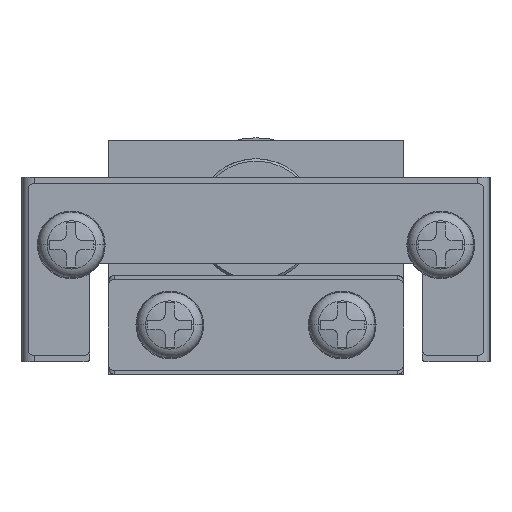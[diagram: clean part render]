
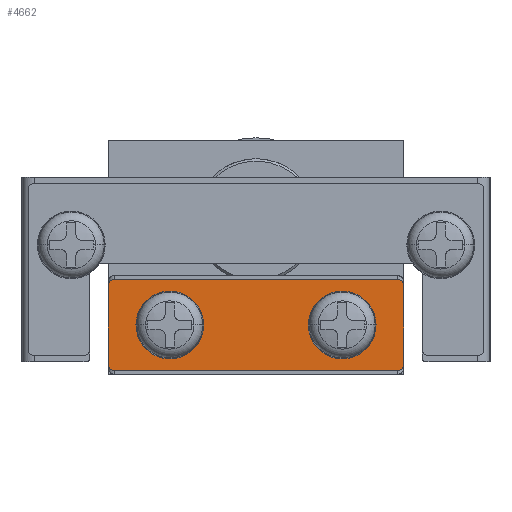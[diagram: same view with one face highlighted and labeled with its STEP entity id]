
A CAD part, left-side view. The second image highlights one B-rep face of the part: STEP entity #4662.
In plain terms, the highlighted planar face has unit normal (-1, 0, 0).
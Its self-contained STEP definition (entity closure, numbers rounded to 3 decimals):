
#778 = EDGE_CURVE ( 'NONE', #23989, #23716, #70968, .T. ) ;
#4298 = EDGE_CURVE ( 'NONE', #23952, #24102, #12253, .T. ) ;
#4306 = EDGE_CURVE ( 'NONE', #24013, #23905, #12292, .T. ) ;
#4314 = EDGE_CURVE ( 'NONE', #24102, #23859, #12229, .T. ) ;
#4340 = EDGE_CURVE ( 'NONE', #23905, #24013, #12568, .T. ) ;
#4357 = EDGE_CURVE ( 'NONE', #23716, #23911, #12496, .T. ) ;
#4360 = EDGE_CURVE ( 'NONE', #23859, #24128, #12405, .T. ) ;
#4365 = EDGE_CURVE ( 'NONE', #24002, #24035, #12489, .T. ) ;
#4367 = EDGE_CURVE ( 'NONE', #23911, #24015, #12680, .T. ) ;
#4372 = EDGE_CURVE ( 'NONE', #24128, #23989, #12592, .T. ) ;
#4374 = EDGE_CURVE ( 'NONE', #24015, #23952, #12676, .T. ) ;
#4375 = EDGE_CURVE ( 'NONE', #24035, #24002, #12620, .T. ) ;
#4662 = ADVANCED_FACE ( 'NONE', ( #15733, #15751, #15855 ), #144850, .T. ) ;
#12207 = VECTOR ( 'NONE', #98229, 1000. ) ;
#12229 = LINE ( 'NONE', #98203, #12207 ) ;
#12253 = CIRCLE ( 'NONE', #157518, 0.5 ) ;
#12292 = CIRCLE ( 'NONE', #157516, 1.6 ) ;
#12405 = CIRCLE ( 'NONE', #157548, 0.5 ) ;
#12430 = VECTOR ( 'NONE', #98355, 1000. ) ;
#12489 = CIRCLE ( 'NONE', #157556, 1.6 ) ;
#12496 = LINE ( 'NONE', #98404, #12430 ) ;
#12568 = CIRCLE ( 'NONE', #157562, 1.6 ) ;
#12592 = LINE ( 'NONE', #98493, #12628 ) ;
#12620 = CIRCLE ( 'NONE', #157534, 1.6 ) ;
#12628 = VECTOR ( 'NONE', #98475, 1000. ) ;
#12676 = LINE ( 'NONE', #98520, #12688 ) ;
#12680 = CIRCLE ( 'NONE', #157544, 0.5 ) ;
#12688 = VECTOR ( 'NONE', #98522, 1000. ) ;
#15733 = FACE_BOUND ( 'NONE', #76168, .T. ) ;
#15751 = FACE_BOUND ( 'NONE', #76088, .T. ) ;
#15855 = FACE_OUTER_BOUND ( 'NONE', #76156, .T. ) ;
#23716 = VERTEX_POINT ( 'NONE', #155174 ) ;
#23859 = VERTEX_POINT ( 'NONE', #155242 ) ;
#23905 = VERTEX_POINT ( 'NONE', #155225 ) ;
#23911 = VERTEX_POINT ( 'NONE', #153639 ) ;
#23952 = VERTEX_POINT ( 'NONE', #156603 ) ;
#23989 = VERTEX_POINT ( 'NONE', #156587 ) ;
#24002 = VERTEX_POINT ( 'NONE', #156565 ) ;
#24013 = VERTEX_POINT ( 'NONE', #156619 ) ;
#24015 = VERTEX_POINT ( 'NONE', #156606 ) ;
#24035 = VERTEX_POINT ( 'NONE', #156573 ) ;
#24102 = VERTEX_POINT ( 'NONE', #156642 ) ;
#24128 = VERTEX_POINT ( 'NONE', #156629 ) ;
#36205 = ORIENTED_EDGE ( 'NONE', *, *, #4367, .F. ) ;
#36213 = ORIENTED_EDGE ( 'NONE', *, *, #4357, .F. ) ;
#36219 = ORIENTED_EDGE ( 'NONE', *, *, #4314, .F. ) ;
#36224 = ORIENTED_EDGE ( 'NONE', *, *, #4375, .F. ) ;
#36232 = ORIENTED_EDGE ( 'NONE', *, *, #4365, .F. ) ;
#36238 = ORIENTED_EDGE ( 'NONE', *, *, #4372, .F. ) ;
#36239 = ORIENTED_EDGE ( 'NONE', *, *, #4340, .F. ) ;
#36242 = ORIENTED_EDGE ( 'NONE', *, *, #778, .F. ) ;
#36253 = ORIENTED_EDGE ( 'NONE', *, *, #4298, .F. ) ;
#36264 = ORIENTED_EDGE ( 'NONE', *, *, #4306, .F. ) ;
#36265 = ORIENTED_EDGE ( 'NONE', *, *, #4360, .F. ) ;
#36284 = ORIENTED_EDGE ( 'NONE', *, *, #4374, .F. ) ;
#70968 = CIRCLE ( 'NONE', #78775, 0.5 ) ;
#76088 = EDGE_LOOP ( 'NONE', ( #36232, #36224 ) ) ;
#76156 = EDGE_LOOP ( 'NONE', ( #36205, #36213, #36242, #36238, #36265, #36219, #36253, #36284 ) ) ;
#76168 = EDGE_LOOP ( 'NONE', ( #36264, #36239 ) ) ;
#76194 = CARTESIAN_POINT ( 'NONE',  ( -30.198, -14.964, 3.2 ) ) ;
#76206 = DIRECTION ( 'NONE',  ( 1., 0., 0. ) ) ;
#76208 = DIRECTION ( 'NONE',  ( 0., 1., 0. ) ) ;
#78775 = AXIS2_PLACEMENT_3D ( 'NONE', #76194, #76206, #76208 ) ;
#98156 = DIRECTION ( 'NONE',  ( 1., 0., 0. ) ) ;
#98170 = CARTESIAN_POINT ( 'NONE',  ( -30.198, 3.536, 0. ) ) ;
#98172 = DIRECTION ( 'NONE',  ( 0., 1., 0. ) ) ;
#98184 = CARTESIAN_POINT ( 'NONE',  ( -30.198, 8.036, -3.2 ) ) ;
#98188 = DIRECTION ( 'NONE',  ( -1., 0., 0. ) ) ;
#98193 = DIRECTION ( 'NONE',  ( 0., 1., 0. ) ) ;
#98203 = CARTESIAN_POINT ( 'NONE',  ( -30.198, 8.536, 3.2 ) ) ;
#98229 = DIRECTION ( 'NONE',  ( 0., 0., 1. ) ) ;
#98355 = DIRECTION ( 'NONE',  ( 0., 0., -1. ) ) ;
#98384 = CARTESIAN_POINT ( 'NONE',  ( -30.198, 3.536, 0. ) ) ;
#98400 = DIRECTION ( 'NONE',  ( 0., 1., 0. ) ) ;
#98404 = CARTESIAN_POINT ( 'NONE',  ( -30.198, -15.464, 3.2 ) ) ;
#98413 = DIRECTION ( 'NONE',  ( -1., 0., 0. ) ) ;
#98427 = DIRECTION ( 'NONE',  ( -1., 0., 0. ) ) ;
#98440 = DIRECTION ( 'NONE',  ( 0., 1., 0. ) ) ;
#98441 = CARTESIAN_POINT ( 'NONE',  ( -30.198, -10.464, 0. ) ) ;
#98443 = DIRECTION ( 'NONE',  ( 0., 1., 0. ) ) ;
#98459 = CARTESIAN_POINT ( 'NONE',  ( -30.198, 8.036, 3.2 ) ) ;
#98466 = DIRECTION ( 'NONE',  ( 1., 0., 0. ) ) ;
#98468 = DIRECTION ( 'NONE',  ( 0., 1., 0. ) ) ;
#98475 = DIRECTION ( 'NONE',  ( 0., -1., 0. ) ) ;
#98477 = CARTESIAN_POINT ( 'NONE',  ( -30.198, -14.964, -3.2 ) ) ;
#98480 = DIRECTION ( 'NONE',  ( 1., 0., 0. ) ) ;
#98493 = CARTESIAN_POINT ( 'NONE',  ( -30.198, 8.036, 3.7 ) ) ;
#98520 = CARTESIAN_POINT ( 'NONE',  ( -30.198, 8.036, -3.7 ) ) ;
#98522 = DIRECTION ( 'NONE',  ( 0., 1., 0. ) ) ;
#98529 = DIRECTION ( 'NONE',  ( 0., 1., 0. ) ) ;
#98538 = DIRECTION ( 'NONE',  ( -1., 0., 0. ) ) ;
#98571 = CARTESIAN_POINT ( 'NONE',  ( -30.198, -10.464, 0. ) ) ;
#144755 = DIRECTION ( 'NONE',  ( -1., 0., 0. ) ) ;
#144802 = CARTESIAN_POINT ( 'NONE',  ( -30.198, -14.964, -3.2 ) ) ;
#144804 = DIRECTION ( 'NONE',  ( 0., 1., 0. ) ) ;
#144850 = PLANE ( 'NONE',  #158232 ) ;
#153639 = CARTESIAN_POINT ( 'NONE',  ( -30.198, -15.464, -3.2 ) ) ;
#155174 = CARTESIAN_POINT ( 'NONE',  ( -30.198, -15.464, 3.2 ) ) ;
#155225 = CARTESIAN_POINT ( 'NONE',  ( -30.198, 1.936, 0. ) ) ;
#155242 = CARTESIAN_POINT ( 'NONE',  ( -30.198, 8.536, 3.2 ) ) ;
#156565 = CARTESIAN_POINT ( 'NONE',  ( -30.198, -8.864, 0. ) ) ;
#156573 = CARTESIAN_POINT ( 'NONE',  ( -30.198, -12.064, 0. ) ) ;
#156587 = CARTESIAN_POINT ( 'NONE',  ( -30.198, -14.964, 3.7 ) ) ;
#156603 = CARTESIAN_POINT ( 'NONE',  ( -30.198, 8.036, -3.7 ) ) ;
#156606 = CARTESIAN_POINT ( 'NONE',  ( -30.198, -14.964, -3.7 ) ) ;
#156619 = CARTESIAN_POINT ( 'NONE',  ( -30.198, 5.136, 0. ) ) ;
#156629 = CARTESIAN_POINT ( 'NONE',  ( -30.198, 8.036, 3.7 ) ) ;
#156642 = CARTESIAN_POINT ( 'NONE',  ( -30.198, 8.536, -3.2 ) ) ;
#157516 = AXIS2_PLACEMENT_3D ( 'NONE', #98170, #98188, #98172 ) ;
#157518 = AXIS2_PLACEMENT_3D ( 'NONE', #98184, #98156, #98193 ) ;
#157534 = AXIS2_PLACEMENT_3D ( 'NONE', #98571, #98538, #98529 ) ;
#157544 = AXIS2_PLACEMENT_3D ( 'NONE', #98477, #98480, #98443 ) ;
#157548 = AXIS2_PLACEMENT_3D ( 'NONE', #98459, #98466, #98440 ) ;
#157556 = AXIS2_PLACEMENT_3D ( 'NONE', #98441, #98427, #98468 ) ;
#157562 = AXIS2_PLACEMENT_3D ( 'NONE', #98384, #98413, #98400 ) ;
#158232 = AXIS2_PLACEMENT_3D ( 'NONE', #144802, #144755, #144804 ) ;
